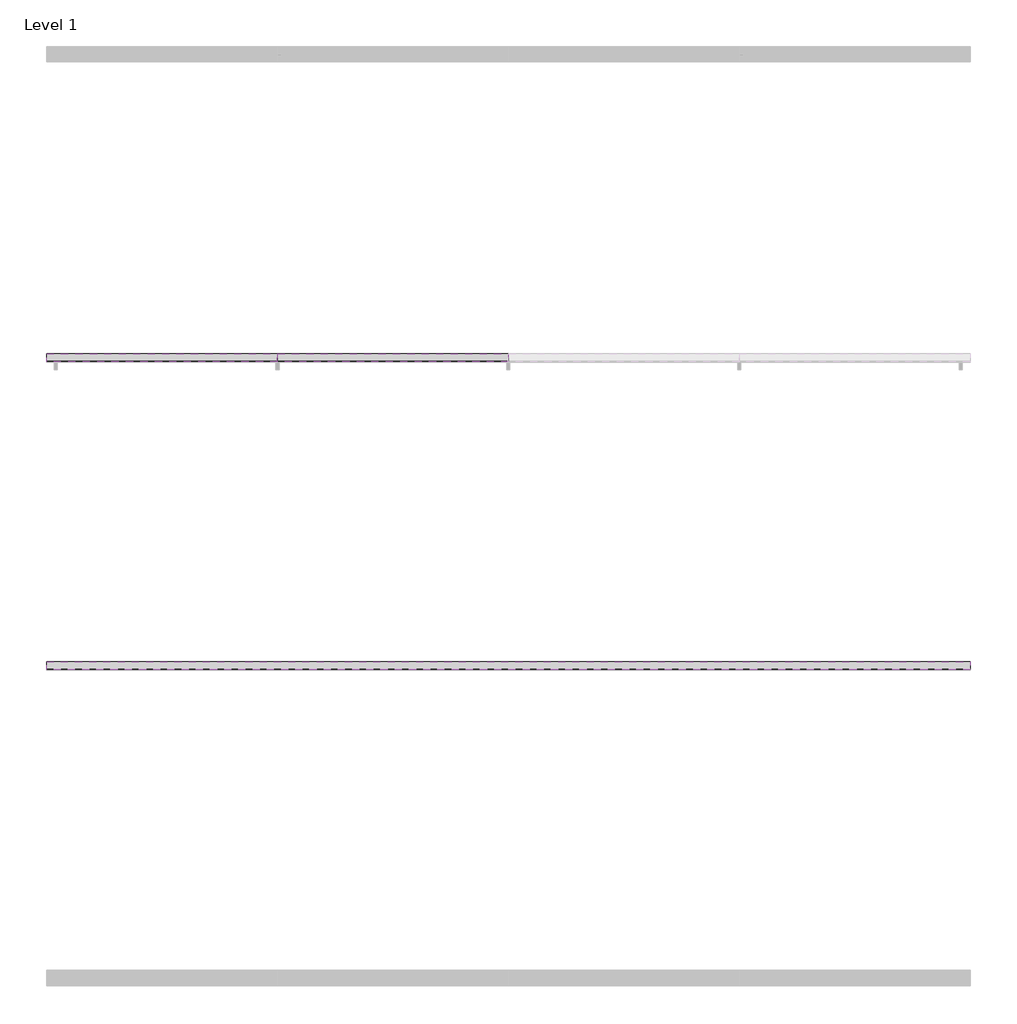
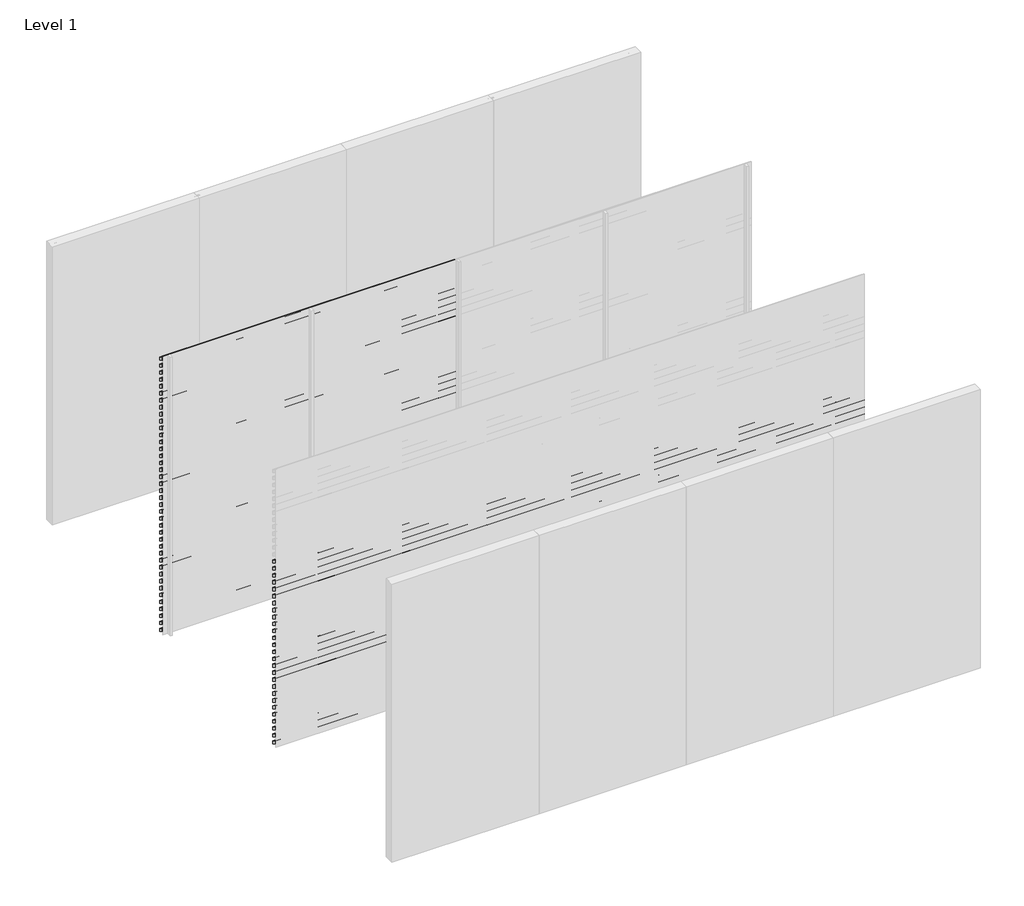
# One storey, part 6 of 9: 94 proxies.
"""IFC4 building model written with IfcOpenShell, lengths in millimetres."""

from ifc_helpers import new_model, si_unit, frame, origin, place, context, project, spatial, polyline, outline, extrude, element, save

model = new_model("IFC4")

# Units and contexts
model_context = context("Model", 3, world=origin())
ifc_project = project(units=[si_unit("LENGTHUNIT", "METRE", prefix="MILLI")], contexts=[model_context])

# Site, building, storey
site = spatial("IfcSite", under=ifc_project)
building = spatial("IfcBuilding", under=site)
storey = spatial("IfcBuildingStorey", under=building, Name="Level 1", Elevation=0.0)

# Proxies
placement = place(None, origin())
element("IfcBuildingElementProxy", 1, Name="Wall Sweeps", at=placement, inside=storey, context=model_context, shape_type="SweptSolid", body=[
    extrude(outline(polyline([(-5995.0, 3000.0), (-5995.0, 2991.2901632), (-5946.0, 2963.0), (-5946.0, 2928.0), (-5997.0, 2957.4448637), (-5997.0, 3000.0), (-5995.0, 3000.0)])), frame((0.0, 0.0, 0.0), z_axis=(1.0, 0.0, 0.0), x_axis=(0.0, 1.0, 0.0)), (0.0, 0.0, 1.0), 1500.0),
])
element("IfcBuildingElementProxy", 2, Name="Wall Sweeps", at=placement, inside=storey, context=model_context, shape_type="SweptSolid", body=[
    extrude(outline(polyline([(-5995.0, 2925.0), (-5995.0, 2916.2901632), (-5946.0, 2888.0), (-5946.0, 2853.0), (-5997.0, 2882.4448637), (-5997.0, 2925.0), (-5995.0, 2925.0)])), frame((0.0, 0.0, 0.0), z_axis=(1.0, 0.0, 0.0), x_axis=(0.0, 1.0, 0.0)), (0.0, 0.0, 1.0), 1500.0),
])
element("IfcBuildingElementProxy", 3, Name="Wall Sweeps", at=placement, inside=storey, context=model_context, shape_type="SweptSolid", body=[
    extrude(outline(polyline([(-5995.0, 2850.0), (-5995.0, 2841.2901632), (-5946.0, 2813.0), (-5946.0, 2778.0), (-5997.0, 2807.4448637), (-5997.0, 2850.0), (-5995.0, 2850.0)])), frame((0.0, 0.0, 0.0), z_axis=(1.0, 0.0, 0.0), x_axis=(0.0, 1.0, 0.0)), (0.0, 0.0, 1.0), 1500.0),
])
element("IfcBuildingElementProxy", 4, Name="Wall Sweeps", at=placement, inside=storey, context=model_context, shape_type="SweptSolid", body=[
    extrude(outline(polyline([(-5995.0, 2775.0), (-5995.0, 2766.2901632), (-5946.0, 2738.0), (-5946.0, 2703.0), (-5997.0, 2732.4448637), (-5997.0, 2775.0), (-5995.0, 2775.0)])), frame((0.0, 0.0, 0.0), z_axis=(1.0, 0.0, 0.0), x_axis=(0.0, 1.0, 0.0)), (0.0, 0.0, 1.0), 1500.0),
])
element("IfcBuildingElementProxy", 5, Name="Wall Sweeps", at=placement, inside=storey, context=model_context, shape_type="SweptSolid", body=[
    extrude(outline(polyline([(-5995.0, 2700.0), (-5995.0, 2691.2901632), (-5946.0, 2663.0), (-5946.0, 2628.0), (-5997.0, 2657.4448637), (-5997.0, 2700.0), (-5995.0, 2700.0)])), frame((0.0, 0.0, 0.0), z_axis=(1.0, 0.0, 0.0), x_axis=(0.0, 1.0, 0.0)), (0.0, 0.0, 1.0), 1500.0),
])
element("IfcBuildingElementProxy", 6, Name="Wall Sweeps", at=placement, inside=storey, context=model_context, shape_type="SweptSolid", body=[
    extrude(outline(polyline([(-5995.0, 2625.0), (-5995.0, 2616.2901632), (-5946.0, 2588.0), (-5946.0, 2553.0), (-5997.0, 2582.4448637), (-5997.0, 2625.0), (-5995.0, 2625.0)])), frame((0.0, 0.0, 0.0), z_axis=(1.0, 0.0, 0.0), x_axis=(0.0, 1.0, 0.0)), (0.0, 0.0, 1.0), 1500.0),
])
element("IfcBuildingElementProxy", 7, Name="Wall Sweeps", at=placement, inside=storey, context=model_context, shape_type="SweptSolid", body=[
    extrude(outline(polyline([(-5995.0, 2550.0), (-5995.0, 2541.2901632), (-5946.0, 2513.0), (-5946.0, 2478.0), (-5997.0, 2507.4448637), (-5997.0, 2550.0), (-5995.0, 2550.0)])), frame((0.0, 0.0, 0.0), z_axis=(1.0, 0.0, 0.0), x_axis=(0.0, 1.0, 0.0)), (0.0, 0.0, 1.0), 1500.0),
])
element("IfcBuildingElementProxy", 8, Name="Wall Sweeps", at=placement, inside=storey, context=model_context, shape_type="SweptSolid", body=[
    extrude(outline(polyline([(-5995.0, 2475.0), (-5995.0, 2466.2901632), (-5946.0, 2438.0), (-5946.0, 2403.0), (-5997.0, 2432.4448637), (-5997.0, 2475.0), (-5995.0, 2475.0)])), frame((0.0, 0.0, 0.0), z_axis=(1.0, 0.0, 0.0), x_axis=(0.0, 1.0, 0.0)), (0.0, 0.0, 1.0), 1500.0),
])
element("IfcBuildingElementProxy", 9, Name="Wall Sweeps", at=placement, inside=storey, context=model_context, shape_type="SweptSolid", body=[
    extrude(outline(polyline([(-5995.0, 2400.0), (-5995.0, 2391.2901632), (-5946.0, 2363.0), (-5946.0, 2328.0), (-5997.0, 2357.4448637), (-5997.0, 2400.0), (-5995.0, 2400.0)])), frame((0.0, 0.0, 0.0), z_axis=(1.0, 0.0, 0.0), x_axis=(0.0, 1.0, 0.0)), (0.0, 0.0, 1.0), 1500.0),
])
element("IfcBuildingElementProxy", 10, Name="Wall Sweeps", at=placement, inside=storey, context=model_context, shape_type="SweptSolid", body=[
    extrude(outline(polyline([(-5995.0, 2325.0), (-5995.0, 2316.2901632), (-5946.0, 2288.0), (-5946.0, 2253.0), (-5997.0, 2282.4448637), (-5997.0, 2325.0), (-5995.0, 2325.0)])), frame((0.0, 0.0, 0.0), z_axis=(1.0, 0.0, 0.0), x_axis=(0.0, 1.0, 0.0)), (0.0, 0.0, 1.0), 1500.0),
])
element("IfcBuildingElementProxy", 11, Name="Wall Sweeps", at=placement, inside=storey, context=model_context, shape_type="SweptSolid", body=[
    extrude(outline(polyline([(-5995.0, 2250.0), (-5995.0, 2241.2901632), (-5946.0, 2213.0), (-5946.0, 2178.0), (-5997.0, 2207.4448637), (-5997.0, 2250.0), (-5995.0, 2250.0)])), frame((0.0, 0.0, 0.0), z_axis=(1.0, 0.0, 0.0), x_axis=(0.0, 1.0, 0.0)), (0.0, 0.0, 1.0), 1500.0),
])
element("IfcBuildingElementProxy", 12, Name="Wall Sweeps", at=placement, inside=storey, context=model_context, shape_type="SweptSolid", body=[
    extrude(outline(polyline([(-5995.0, 2175.0), (-5995.0, 2166.2901632), (-5946.0, 2138.0), (-5946.0, 2103.0), (-5997.0, 2132.4448637), (-5997.0, 2175.0), (-5995.0, 2175.0)])), frame((0.0, 0.0, 0.0), z_axis=(1.0, 0.0, 0.0), x_axis=(0.0, 1.0, 0.0)), (0.0, 0.0, 1.0), 1500.0),
])
element("IfcBuildingElementProxy", 13, Name="Wall Sweeps", at=placement, inside=storey, context=model_context, shape_type="SweptSolid", body=[
    extrude(outline(polyline([(-5995.0, 2100.0), (-5995.0, 2091.2901632), (-5946.0, 2063.0), (-5946.0, 2028.0), (-5997.0, 2057.4448637), (-5997.0, 2100.0), (-5995.0, 2100.0)])), frame((0.0, 0.0, 0.0), z_axis=(1.0, 0.0, 0.0), x_axis=(0.0, 1.0, 0.0)), (0.0, 0.0, 1.0), 1500.0),
])
element("IfcBuildingElementProxy", 14, Name="Wall Sweeps", at=placement, inside=storey, context=model_context, shape_type="SweptSolid", body=[
    extrude(outline(polyline([(-5995.0, 2025.0), (-5995.0, 2016.2901632), (-5946.0, 1988.0), (-5946.0, 1953.0), (-5997.0, 1982.4448637), (-5997.0, 2025.0), (-5995.0, 2025.0)])), frame((0.0, 0.0, 0.0), z_axis=(1.0, 0.0, 0.0), x_axis=(0.0, 1.0, 0.0)), (0.0, 0.0, 1.0), 1500.0),
])
element("IfcBuildingElementProxy", 15, Name="Wall Sweeps", at=placement, inside=storey, context=model_context, shape_type="SweptSolid", body=[
    extrude(outline(polyline([(-5995.0, 1950.0), (-5995.0, 1941.2901632), (-5946.0, 1913.0), (-5946.0, 1878.0), (-5997.0, 1907.4448637), (-5997.0, 1950.0), (-5995.0, 1950.0)])), frame((0.0, 0.0, 0.0), z_axis=(1.0, 0.0, 0.0), x_axis=(0.0, 1.0, 0.0)), (0.0, 0.0, 1.0), 1500.0),
])
element("IfcBuildingElementProxy", 16, Name="Wall Sweeps", at=placement, inside=storey, context=model_context, shape_type="SweptSolid", body=[
    extrude(outline(polyline([(-5995.0, 1875.0), (-5995.0, 1866.2901632), (-5946.0, 1838.0), (-5946.0, 1803.0), (-5997.0, 1832.4448637), (-5997.0, 1875.0), (-5995.0, 1875.0)])), frame((0.0, 0.0, 0.0), z_axis=(1.0, 0.0, 0.0), x_axis=(0.0, 1.0, 0.0)), (0.0, 0.0, 1.0), 1500.0),
])
element("IfcBuildingElementProxy", 17, Name="Wall Sweeps", at=placement, inside=storey, context=model_context, shape_type="SweptSolid", body=[
    extrude(outline(polyline([(-5995.0, 1800.0), (-5995.0, 1791.2901632), (-5946.0, 1763.0), (-5946.0, 1728.0), (-5997.0, 1757.4448637), (-5997.0, 1800.0), (-5995.0, 1800.0)])), frame((0.0, 0.0, 0.0), z_axis=(1.0, 0.0, 0.0), x_axis=(0.0, 1.0, 0.0)), (0.0, 0.0, 1.0), 1500.0),
])
element("IfcBuildingElementProxy", 18, Name="Wall Sweeps", at=placement, inside=storey, context=model_context, shape_type="SweptSolid", body=[
    extrude(outline(polyline([(-5995.0, 1725.0), (-5995.0, 1716.2901632), (-5946.0, 1688.0), (-5946.0, 1653.0), (-5997.0, 1682.4448637), (-5997.0, 1725.0), (-5995.0, 1725.0)])), frame((0.0, 0.0, 0.0), z_axis=(1.0, 0.0, 0.0), x_axis=(0.0, 1.0, 0.0)), (0.0, 0.0, 1.0), 1500.0),
])
element("IfcBuildingElementProxy", 19, Name="Wall Sweeps", at=placement, inside=storey, context=model_context, shape_type="SweptSolid", body=[
    extrude(outline(polyline([(-5995.0, 1650.0), (-5995.0, 1641.2901632), (-5946.0, 1613.0), (-5946.0, 1578.0), (-5997.0, 1607.4448637), (-5997.0, 1650.0), (-5995.0, 1650.0)])), frame((0.0, 0.0, 0.0), z_axis=(1.0, 0.0, 0.0), x_axis=(0.0, 1.0, 0.0)), (0.0, 0.0, 1.0), 1500.0),
])
element("IfcBuildingElementProxy", 20, Name="Wall Sweeps", at=placement, inside=storey, context=model_context, shape_type="SweptSolid", body=[
    extrude(outline(polyline([(-5995.0, 1575.0), (-5995.0, 1566.2901632), (-5946.0, 1538.0), (-5946.0, 1503.0), (-5997.0, 1532.4448637), (-5997.0, 1575.0), (-5995.0, 1575.0)])), frame((0.0, 0.0, 0.0), z_axis=(1.0, 0.0, 0.0), x_axis=(0.0, 1.0, 0.0)), (0.0, 0.0, 1.0), 1500.0),
])
element("IfcBuildingElementProxy", 21, Name="Wall Sweeps", at=placement, inside=storey, context=model_context, shape_type="SweptSolid", body=[
    extrude(outline(polyline([(-5995.0, 1500.0), (-5995.0, 1491.2901632), (-5946.0, 1463.0), (-5946.0, 1428.0), (-5997.0, 1457.4448637), (-5997.0, 1500.0), (-5995.0, 1500.0)])), frame((0.0, 0.0, 0.0), z_axis=(1.0, 0.0, 0.0), x_axis=(0.0, 1.0, 0.0)), (0.0, 0.0, 1.0), 1500.0),
])
element("IfcBuildingElementProxy", 22, Name="Wall Sweeps", at=placement, inside=storey, context=model_context, shape_type="SweptSolid", body=[
    extrude(outline(polyline([(-5995.0, 1425.0), (-5995.0, 1416.2901632), (-5946.0, 1388.0), (-5946.0, 1353.0), (-5997.0, 1382.4448637), (-5997.0, 1425.0), (-5995.0, 1425.0)])), frame((0.0, 0.0, 0.0), z_axis=(1.0, 0.0, 0.0), x_axis=(0.0, 1.0, 0.0)), (0.0, 0.0, 1.0), 1500.0),
])
element("IfcBuildingElementProxy", 23, Name="Wall Sweeps", at=placement, inside=storey, context=model_context, shape_type="SweptSolid", body=[
    extrude(outline(polyline([(-5995.0, 1350.0), (-5995.0, 1341.2901632), (-5946.0, 1313.0), (-5946.0, 1278.0), (-5997.0, 1307.4448637), (-5997.0, 1350.0), (-5995.0, 1350.0)])), frame((0.0, 0.0, 0.0), z_axis=(1.0, 0.0, 0.0), x_axis=(0.0, 1.0, 0.0)), (0.0, 0.0, 1.0), 1500.0),
])
element("IfcBuildingElementProxy", 24, Name="Wall Sweeps", at=placement, inside=storey, context=model_context, shape_type="SweptSolid", body=[
    extrude(outline(polyline([(-5995.0, 1275.0), (-5995.0, 1266.2901632), (-5946.0, 1238.0), (-5946.0, 1203.0), (-5997.0, 1232.4448637), (-5997.0, 1275.0), (-5995.0, 1275.0)])), frame((0.0, 0.0, 0.0), z_axis=(1.0, 0.0, 0.0), x_axis=(0.0, 1.0, 0.0)), (0.0, 0.0, 1.0), 1500.0),
])
element("IfcBuildingElementProxy", 25, Name="Wall Sweeps", at=placement, inside=storey, context=model_context, shape_type="SweptSolid", body=[
    extrude(outline(polyline([(-5995.0, 1200.0), (-5995.0, 1191.2901632), (-5946.0, 1163.0), (-5946.0, 1128.0), (-5997.0, 1157.4448637), (-5997.0, 1200.0), (-5995.0, 1200.0)])), frame((0.0, 0.0, 0.0), z_axis=(1.0, 0.0, 0.0), x_axis=(0.0, 1.0, 0.0)), (0.0, 0.0, 1.0), 1500.0),
])
element("IfcBuildingElementProxy", 26, Name="Wall Sweeps", at=placement, inside=storey, context=model_context, shape_type="SweptSolid", body=[
    extrude(outline(polyline([(-5995.0, 1125.0), (-5995.0, 1116.2901632), (-5946.0, 1088.0), (-5946.0, 1053.0), (-5997.0, 1082.4448637), (-5997.0, 1125.0), (-5995.0, 1125.0)])), frame((0.0, 0.0, 0.0), z_axis=(1.0, 0.0, 0.0), x_axis=(0.0, 1.0, 0.0)), (0.0, 0.0, 1.0), 1500.0),
])
element("IfcBuildingElementProxy", 27, Name="Wall Sweeps", at=placement, inside=storey, context=model_context, shape_type="SweptSolid", body=[
    extrude(outline(polyline([(-5995.0, 1050.0), (-5995.0, 1041.2901632), (-5946.0, 1013.0), (-5946.0, 978.0), (-5997.0, 1007.4448637), (-5997.0, 1050.0), (-5995.0, 1050.0)])), frame((0.0, 0.0, 0.0), z_axis=(1.0, 0.0, 0.0), x_axis=(0.0, 1.0, 0.0)), (0.0, 0.0, 1.0), 1500.0),
])
element("IfcBuildingElementProxy", 28, Name="Wall Sweeps", at=placement, inside=storey, context=model_context, shape_type="SweptSolid", body=[
    extrude(outline(polyline([(-5995.0, 975.0), (-5995.0, 966.2901632), (-5946.0, 938.0), (-5946.0, 903.0), (-5997.0, 932.4448637), (-5997.0, 975.0), (-5995.0, 975.0)])), frame((0.0, 0.0, 0.0), z_axis=(1.0, 0.0, 0.0), x_axis=(0.0, 1.0, 0.0)), (0.0, 0.0, 1.0), 1500.0),
])
element("IfcBuildingElementProxy", 29, Name="Wall Sweeps", at=placement, inside=storey, context=model_context, shape_type="SweptSolid", body=[
    extrude(outline(polyline([(-5995.0, 900.0), (-5995.0, 891.2901632), (-5946.0, 863.0), (-5946.0, 828.0), (-5997.0, 857.4448637), (-5997.0, 900.0), (-5995.0, 900.0)])), frame((0.0, 0.0, 0.0), z_axis=(1.0, 0.0, 0.0), x_axis=(0.0, 1.0, 0.0)), (0.0, 0.0, 1.0), 1500.0),
])
element("IfcBuildingElementProxy", 30, Name="Wall Sweeps", at=placement, inside=storey, context=model_context, shape_type="SweptSolid", body=[
    extrude(outline(polyline([(-5995.0, 825.0), (-5995.0, 816.2901632), (-5946.0, 788.0), (-5946.0, 753.0), (-5997.0, 782.4448637), (-5997.0, 825.0), (-5995.0, 825.0)])), frame((0.0, 0.0, 0.0), z_axis=(1.0, 0.0, 0.0), x_axis=(0.0, 1.0, 0.0)), (0.0, 0.0, 1.0), 1500.0),
])
element("IfcBuildingElementProxy", 31, Name="Wall Sweeps", at=placement, inside=storey, context=model_context, shape_type="SweptSolid", body=[
    extrude(outline(polyline([(-5995.0, 750.0), (-5995.0, 741.2901632), (-5946.0, 713.0), (-5946.0, 678.0), (-5997.0, 707.4448637), (-5997.0, 750.0), (-5995.0, 750.0)])), frame((0.0, 0.0, 0.0), z_axis=(1.0, 0.0, 0.0), x_axis=(0.0, 1.0, 0.0)), (0.0, 0.0, 1.0), 1500.0),
])
element("IfcBuildingElementProxy", 32, Name="Wall Sweeps", at=placement, inside=storey, context=model_context, shape_type="SweptSolid", body=[
    extrude(outline(polyline([(-5995.0, 675.0), (-5995.0, 666.2901632), (-5946.0, 638.0), (-5946.0, 603.0), (-5997.0, 632.4448637), (-5997.0, 675.0), (-5995.0, 675.0)])), frame((0.0, 0.0, 0.0), z_axis=(1.0, 0.0, 0.0), x_axis=(0.0, 1.0, 0.0)), (0.0, 0.0, 1.0), 1500.0),
])
element("IfcBuildingElementProxy", 33, Name="Wall Sweeps", at=placement, inside=storey, context=model_context, shape_type="SweptSolid", body=[
    extrude(outline(polyline([(-5995.0, 600.0), (-5995.0, 591.2901632), (-5946.0, 563.0), (-5946.0, 528.0), (-5997.0, 557.4448637), (-5997.0, 600.0), (-5995.0, 600.0)])), frame((0.0, 0.0, 0.0), z_axis=(1.0, 0.0, 0.0), x_axis=(0.0, 1.0, 0.0)), (0.0, 0.0, 1.0), 1500.0),
])
element("IfcBuildingElementProxy", 34, Name="Wall Sweeps", at=placement, inside=storey, context=model_context, shape_type="SweptSolid", body=[
    extrude(outline(polyline([(-5995.0, 525.0), (-5995.0, 516.2901632), (-5946.0, 488.0), (-5946.0, 453.0), (-5997.0, 482.4448637), (-5997.0, 525.0), (-5995.0, 525.0)])), frame((0.0, 0.0, 0.0), z_axis=(1.0, 0.0, 0.0), x_axis=(0.0, 1.0, 0.0)), (0.0, 0.0, 1.0), 1500.0),
])
element("IfcBuildingElementProxy", 35, Name="Wall Sweeps", at=placement, inside=storey, context=model_context, shape_type="SweptSolid", body=[
    extrude(outline(polyline([(-5995.0, 450.0), (-5995.0, 441.2901632), (-5946.0, 413.0), (-5946.0, 378.0), (-5997.0, 407.4448637), (-5997.0, 450.0), (-5995.0, 450.0)])), frame((0.0, 0.0, 0.0), z_axis=(1.0, 0.0, 0.0), x_axis=(0.0, 1.0, 0.0)), (0.0, 0.0, 1.0), 1500.0),
])
element("IfcBuildingElementProxy", 36, Name="Wall Sweeps", at=placement, inside=storey, context=model_context, shape_type="SweptSolid", body=[
    extrude(outline(polyline([(-5995.0, 375.0), (-5995.0, 366.2901632), (-5946.0, 338.0), (-5946.0, 303.0), (-5997.0, 332.4448637), (-5997.0, 375.0), (-5995.0, 375.0)])), frame((0.0, 0.0, 0.0), z_axis=(1.0, 0.0, 0.0), x_axis=(0.0, 1.0, 0.0)), (0.0, 0.0, 1.0), 1500.0),
])
element("IfcBuildingElementProxy", 37, Name="Wall Sweeps", at=placement, inside=storey, context=model_context, shape_type="SweptSolid", body=[
    extrude(outline(polyline([(-5995.0, 300.0), (-5995.0, 291.2901632), (-5946.0, 263.0), (-5946.0, 228.0), (-5997.0, 257.4448637), (-5997.0, 300.0), (-5995.0, 300.0)])), frame((0.0, 0.0, 0.0), z_axis=(1.0, 0.0, 0.0), x_axis=(0.0, 1.0, 0.0)), (0.0, 0.0, 1.0), 1500.0),
])
element("IfcBuildingElementProxy", 38, Name="Wall Sweeps", at=placement, inside=storey, context=model_context, shape_type="SweptSolid", body=[
    extrude(outline(polyline([(-5995.0, 225.0), (-5995.0, 216.2901632), (-5946.0, 188.0), (-5946.0, 153.0), (-5997.0, 182.4448637), (-5997.0, 225.0), (-5995.0, 225.0)])), frame((0.0, 0.0, 0.0), z_axis=(1.0, 0.0, 0.0), x_axis=(0.0, 1.0, 0.0)), (0.0, 0.0, 1.0), 1500.0),
])
element("IfcBuildingElementProxy", 39, Name="Wall Sweeps", at=placement, inside=storey, context=model_context, shape_type="SweptSolid", body=[
    extrude(outline(polyline([(-5995.0, 150.0), (-5995.0, 141.2901632), (-5946.0, 113.0), (-5946.0, 78.0), (-5997.0, 107.4448637), (-5997.0, 150.0), (-5995.0, 150.0)])), frame((0.0, 0.0, 0.0), z_axis=(1.0, 0.0, 0.0), x_axis=(0.0, 1.0, 0.0)), (0.0, 0.0, 1.0), 1500.0),
])
element("IfcBuildingElementProxy", 40, Name="Wall Sweeps", at=placement, inside=storey, context=model_context, shape_type="SweptSolid", body=[
    extrude(outline(polyline([(-5995.0, 75.0), (-5995.0, 66.2901632), (-5946.0, 38.0), (-5946.0, 3.0), (-5997.0, 32.4448637), (-5997.0, 75.0), (-5995.0, 75.0)])), frame((0.0, 0.0, 0.0), z_axis=(1.0, 0.0, 0.0), x_axis=(0.0, 1.0, 0.0)), (0.0, 0.0, 1.0), 1500.0),
])
element("IfcBuildingElementProxy", 41, Name="Wall Sweeps", at=placement, inside=storey, context=model_context, shape_type="SweptSolid", body=[
    extrude(outline(polyline([(-5995.0, 3000.0), (-5995.0, 2991.2901632), (-5946.0, 2963.0), (-5946.0, 2928.0), (-5997.0, 2957.4448637), (-5997.0, 3000.0), (-5995.0, 3000.0)])), frame((1500.0, 0.0, 0.0), z_axis=(1.0, 0.0, 0.0), x_axis=(0.0, 1.0, 0.0)), (0.0, 0.0, 1.0), 1500.0),
])
element("IfcBuildingElementProxy", 42, Name="Wall Sweeps", at=placement, inside=storey, context=model_context, shape_type="SweptSolid", body=[
    extrude(outline(polyline([(-5995.0, 2925.0), (-5995.0, 2916.2901632), (-5946.0, 2888.0), (-5946.0, 2853.0), (-5997.0, 2882.4448637), (-5997.0, 2925.0), (-5995.0, 2925.0)])), frame((1500.0, 0.0, 0.0), z_axis=(1.0, 0.0, 0.0), x_axis=(0.0, 1.0, 0.0)), (0.0, 0.0, 1.0), 1500.0),
])
element("IfcBuildingElementProxy", 43, Name="Wall Sweeps", at=placement, inside=storey, context=model_context, shape_type="SweptSolid", body=[
    extrude(outline(polyline([(-5995.0, 2850.0), (-5995.0, 2841.2901632), (-5946.0, 2813.0), (-5946.0, 2778.0), (-5997.0, 2807.4448637), (-5997.0, 2850.0), (-5995.0, 2850.0)])), frame((1500.0, 0.0, 0.0), z_axis=(1.0, 0.0, 0.0), x_axis=(0.0, 1.0, 0.0)), (0.0, 0.0, 1.0), 1500.0),
])
element("IfcBuildingElementProxy", 44, Name="Wall Sweeps", at=placement, inside=storey, context=model_context, shape_type="SweptSolid", body=[
    extrude(outline(polyline([(-5995.0, 2775.0), (-5995.0, 2766.2901632), (-5946.0, 2738.0), (-5946.0, 2703.0), (-5997.0, 2732.4448637), (-5997.0, 2775.0), (-5995.0, 2775.0)])), frame((1500.0, 0.0, 0.0), z_axis=(1.0, 0.0, 0.0), x_axis=(0.0, 1.0, 0.0)), (0.0, 0.0, 1.0), 1500.0),
])
element("IfcBuildingElementProxy", 45, Name="Wall Sweeps", at=placement, inside=storey, context=model_context, shape_type="SweptSolid", body=[
    extrude(outline(polyline([(-5995.0, 2700.0), (-5995.0, 2691.2901632), (-5946.0, 2663.0), (-5946.0, 2628.0), (-5997.0, 2657.4448637), (-5997.0, 2700.0), (-5995.0, 2700.0)])), frame((1500.0, 0.0, 0.0), z_axis=(1.0, 0.0, 0.0), x_axis=(0.0, 1.0, 0.0)), (0.0, 0.0, 1.0), 1500.0),
])
element("IfcBuildingElementProxy", 46, Name="Wall Sweeps", at=placement, inside=storey, context=model_context, shape_type="SweptSolid", body=[
    extrude(outline(polyline([(-5995.0, 2625.0), (-5995.0, 2616.2901632), (-5946.0, 2588.0), (-5946.0, 2553.0), (-5997.0, 2582.4448637), (-5997.0, 2625.0), (-5995.0, 2625.0)])), frame((1500.0, 0.0, 0.0), z_axis=(1.0, 0.0, 0.0), x_axis=(0.0, 1.0, 0.0)), (0.0, 0.0, 1.0), 1500.0),
])
element("IfcBuildingElementProxy", 47, Name="Wall Sweeps", at=placement, inside=storey, context=model_context, shape_type="SweptSolid", body=[
    extrude(outline(polyline([(-5995.0, 2550.0), (-5995.0, 2541.2901632), (-5946.0, 2513.0), (-5946.0, 2478.0), (-5997.0, 2507.4448637), (-5997.0, 2550.0), (-5995.0, 2550.0)])), frame((1500.0, 0.0, 0.0), z_axis=(1.0, 0.0, 0.0), x_axis=(0.0, 1.0, 0.0)), (0.0, 0.0, 1.0), 1500.0),
])
element("IfcBuildingElementProxy", 48, Name="Wall Sweeps", at=placement, inside=storey, context=model_context, shape_type="SweptSolid", body=[
    extrude(outline(polyline([(-5995.0, 2475.0), (-5995.0, 2466.2901632), (-5946.0, 2438.0), (-5946.0, 2403.0), (-5997.0, 2432.4448637), (-5997.0, 2475.0), (-5995.0, 2475.0)])), frame((1500.0, 0.0, 0.0), z_axis=(1.0, 0.0, 0.0), x_axis=(0.0, 1.0, 0.0)), (0.0, 0.0, 1.0), 1500.0),
])
element("IfcBuildingElementProxy", 49, Name="Wall Sweeps", at=placement, inside=storey, context=model_context, shape_type="SweptSolid", body=[
    extrude(outline(polyline([(-5995.0, 2400.0), (-5995.0, 2391.2901632), (-5946.0, 2363.0), (-5946.0, 2328.0), (-5997.0, 2357.4448637), (-5997.0, 2400.0), (-5995.0, 2400.0)])), frame((1500.0, 0.0, 0.0), z_axis=(1.0, 0.0, 0.0), x_axis=(0.0, 1.0, 0.0)), (0.0, 0.0, 1.0), 1500.0),
])
element("IfcBuildingElementProxy", 50, Name="Wall Sweeps", at=placement, inside=storey, context=model_context, shape_type="SweptSolid", body=[
    extrude(outline(polyline([(-5995.0, 2325.0), (-5995.0, 2316.2901632), (-5946.0, 2288.0), (-5946.0, 2253.0), (-5997.0, 2282.4448637), (-5997.0, 2325.0), (-5995.0, 2325.0)])), frame((1500.0, 0.0, 0.0), z_axis=(1.0, 0.0, 0.0), x_axis=(0.0, 1.0, 0.0)), (0.0, 0.0, 1.0), 1500.0),
])
element("IfcBuildingElementProxy", 51, Name="Wall Sweeps", at=placement, inside=storey, context=model_context, shape_type="SweptSolid", body=[
    extrude(outline(polyline([(-5995.0, 2250.0), (-5995.0, 2241.2901632), (-5946.0, 2213.0), (-5946.0, 2178.0), (-5997.0, 2207.4448637), (-5997.0, 2250.0), (-5995.0, 2250.0)])), frame((1500.0, 0.0, 0.0), z_axis=(1.0, 0.0, 0.0), x_axis=(0.0, 1.0, 0.0)), (0.0, 0.0, 1.0), 1500.0),
])
element("IfcBuildingElementProxy", 52, Name="Wall Sweeps", at=placement, inside=storey, context=model_context, shape_type="SweptSolid", body=[
    extrude(outline(polyline([(-5995.0, 2175.0), (-5995.0, 2166.2901632), (-5946.0, 2138.0), (-5946.0, 2103.0), (-5997.0, 2132.4448637), (-5997.0, 2175.0), (-5995.0, 2175.0)])), frame((1500.0, 0.0, 0.0), z_axis=(1.0, 0.0, 0.0), x_axis=(0.0, 1.0, 0.0)), (0.0, 0.0, 1.0), 1500.0),
])
element("IfcBuildingElementProxy", 53, Name="Wall Sweeps", at=placement, inside=storey, context=model_context, shape_type="SweptSolid", body=[
    extrude(outline(polyline([(-5995.0, 2100.0), (-5995.0, 2091.2901632), (-5946.0, 2063.0), (-5946.0, 2028.0), (-5997.0, 2057.4448637), (-5997.0, 2100.0), (-5995.0, 2100.0)])), frame((1500.0, 0.0, 0.0), z_axis=(1.0, 0.0, 0.0), x_axis=(0.0, 1.0, 0.0)), (0.0, 0.0, 1.0), 1500.0),
])
element("IfcBuildingElementProxy", 54, Name="Wall Sweeps", at=placement, inside=storey, context=model_context, shape_type="SweptSolid", body=[
    extrude(outline(polyline([(-5995.0, 2025.0), (-5995.0, 2016.2901632), (-5946.0, 1988.0), (-5946.0, 1953.0), (-5997.0, 1982.4448637), (-5997.0, 2025.0), (-5995.0, 2025.0)])), frame((1500.0, 0.0, 0.0), z_axis=(1.0, 0.0, 0.0), x_axis=(0.0, 1.0, 0.0)), (0.0, 0.0, 1.0), 1500.0),
])
element("IfcBuildingElementProxy", 55, Name="Wall Sweeps", at=placement, inside=storey, context=model_context, shape_type="SweptSolid", body=[
    extrude(outline(polyline([(-5995.0, 1950.0), (-5995.0, 1941.2901632), (-5946.0, 1913.0), (-5946.0, 1878.0), (-5997.0, 1907.4448637), (-5997.0, 1950.0), (-5995.0, 1950.0)])), frame((1500.0, 0.0, 0.0), z_axis=(1.0, 0.0, 0.0), x_axis=(0.0, 1.0, 0.0)), (0.0, 0.0, 1.0), 1500.0),
])
element("IfcBuildingElementProxy", 56, Name="Wall Sweeps", at=placement, inside=storey, context=model_context, shape_type="SweptSolid", body=[
    extrude(outline(polyline([(-5995.0, 1875.0), (-5995.0, 1866.2901632), (-5946.0, 1838.0), (-5946.0, 1803.0), (-5997.0, 1832.4448637), (-5997.0, 1875.0), (-5995.0, 1875.0)])), frame((1500.0, 0.0, 0.0), z_axis=(1.0, 0.0, 0.0), x_axis=(0.0, 1.0, 0.0)), (0.0, 0.0, 1.0), 1500.0),
])
element("IfcBuildingElementProxy", 57, Name="Wall Sweeps", at=placement, inside=storey, context=model_context, shape_type="SweptSolid", body=[
    extrude(outline(polyline([(-5995.0, 1800.0), (-5995.0, 1791.2901632), (-5946.0, 1763.0), (-5946.0, 1728.0), (-5997.0, 1757.4448637), (-5997.0, 1800.0), (-5995.0, 1800.0)])), frame((1500.0, 0.0, 0.0), z_axis=(1.0, 0.0, 0.0), x_axis=(0.0, 1.0, 0.0)), (0.0, 0.0, 1.0), 1500.0),
])
element("IfcBuildingElementProxy", 58, Name="Wall Sweeps", at=placement, inside=storey, context=model_context, shape_type="SweptSolid", body=[
    extrude(outline(polyline([(-5995.0, 1725.0), (-5995.0, 1716.2901632), (-5946.0, 1688.0), (-5946.0, 1653.0), (-5997.0, 1682.4448637), (-5997.0, 1725.0), (-5995.0, 1725.0)])), frame((1500.0, 0.0, 0.0), z_axis=(1.0, 0.0, 0.0), x_axis=(0.0, 1.0, 0.0)), (0.0, 0.0, 1.0), 1500.0),
])
element("IfcBuildingElementProxy", 59, Name="Wall Sweeps", at=placement, inside=storey, context=model_context, shape_type="SweptSolid", body=[
    extrude(outline(polyline([(-5995.0, 1650.0), (-5995.0, 1641.2901632), (-5946.0, 1613.0), (-5946.0, 1578.0), (-5997.0, 1607.4448637), (-5997.0, 1650.0), (-5995.0, 1650.0)])), frame((1500.0, 0.0, 0.0), z_axis=(1.0, 0.0, 0.0), x_axis=(0.0, 1.0, 0.0)), (0.0, 0.0, 1.0), 1500.0),
])
element("IfcBuildingElementProxy", 60, Name="Wall Sweeps", at=placement, inside=storey, context=model_context, shape_type="SweptSolid", body=[
    extrude(outline(polyline([(-5995.0, 1575.0), (-5995.0, 1566.2901632), (-5946.0, 1538.0), (-5946.0, 1503.0), (-5997.0, 1532.4448637), (-5997.0, 1575.0), (-5995.0, 1575.0)])), frame((1500.0, 0.0, 0.0), z_axis=(1.0, 0.0, 0.0), x_axis=(0.0, 1.0, 0.0)), (0.0, 0.0, 1.0), 1500.0),
])
element("IfcBuildingElementProxy", 61, Name="Wall Sweeps", at=placement, inside=storey, context=model_context, shape_type="SweptSolid", body=[
    extrude(outline(polyline([(-5995.0, 1500.0), (-5995.0, 1491.2901632), (-5946.0, 1463.0), (-5946.0, 1428.0), (-5997.0, 1457.4448637), (-5997.0, 1500.0), (-5995.0, 1500.0)])), frame((1500.0, 0.0, 0.0), z_axis=(1.0, 0.0, 0.0), x_axis=(0.0, 1.0, 0.0)), (0.0, 0.0, 1.0), 1500.0),
])
element("IfcBuildingElementProxy", 62, Name="Wall Sweeps", at=placement, inside=storey, context=model_context, shape_type="SweptSolid", body=[
    extrude(outline(polyline([(-5995.0, 1425.0), (-5995.0, 1416.2901632), (-5946.0, 1388.0), (-5946.0, 1353.0), (-5997.0, 1382.4448637), (-5997.0, 1425.0), (-5995.0, 1425.0)])), frame((1500.0, 0.0, 0.0), z_axis=(1.0, 0.0, 0.0), x_axis=(0.0, 1.0, 0.0)), (0.0, 0.0, 1.0), 1500.0),
])
element("IfcBuildingElementProxy", 63, Name="Wall Sweeps", at=placement, inside=storey, context=model_context, shape_type="SweptSolid", body=[
    extrude(outline(polyline([(-5995.0, 1350.0), (-5995.0, 1341.2901632), (-5946.0, 1313.0), (-5946.0, 1278.0), (-5997.0, 1307.4448637), (-5997.0, 1350.0), (-5995.0, 1350.0)])), frame((1500.0, 0.0, 0.0), z_axis=(1.0, 0.0, 0.0), x_axis=(0.0, 1.0, 0.0)), (0.0, 0.0, 1.0), 1500.0),
])
element("IfcBuildingElementProxy", 64, Name="Wall Sweeps", at=placement, inside=storey, context=model_context, shape_type="SweptSolid", body=[
    extrude(outline(polyline([(-5995.0, 1275.0), (-5995.0, 1266.2901632), (-5946.0, 1238.0), (-5946.0, 1203.0), (-5997.0, 1232.4448637), (-5997.0, 1275.0), (-5995.0, 1275.0)])), frame((1500.0, 0.0, 0.0), z_axis=(1.0, 0.0, 0.0), x_axis=(0.0, 1.0, 0.0)), (0.0, 0.0, 1.0), 1500.0),
])
element("IfcBuildingElementProxy", 65, Name="Wall Sweeps", at=placement, inside=storey, context=model_context, shape_type="SweptSolid", body=[
    extrude(outline(polyline([(-5995.0, 1200.0), (-5995.0, 1191.2901632), (-5946.0, 1163.0), (-5946.0, 1128.0), (-5997.0, 1157.4448637), (-5997.0, 1200.0), (-5995.0, 1200.0)])), frame((1500.0, 0.0, 0.0), z_axis=(1.0, 0.0, 0.0), x_axis=(0.0, 1.0, 0.0)), (0.0, 0.0, 1.0), 1500.0),
])
element("IfcBuildingElementProxy", 66, Name="Wall Sweeps", at=placement, inside=storey, context=model_context, shape_type="SweptSolid", body=[
    extrude(outline(polyline([(-5995.0, 1125.0), (-5995.0, 1116.2901632), (-5946.0, 1088.0), (-5946.0, 1053.0), (-5997.0, 1082.4448637), (-5997.0, 1125.0), (-5995.0, 1125.0)])), frame((1500.0, 0.0, 0.0), z_axis=(1.0, 0.0, 0.0), x_axis=(0.0, 1.0, 0.0)), (0.0, 0.0, 1.0), 1500.0),
])
element("IfcBuildingElementProxy", 67, Name="Wall Sweeps", at=placement, inside=storey, context=model_context, shape_type="SweptSolid", body=[
    extrude(outline(polyline([(-5995.0, 1050.0), (-5995.0, 1041.2901632), (-5946.0, 1013.0), (-5946.0, 978.0), (-5997.0, 1007.4448637), (-5997.0, 1050.0), (-5995.0, 1050.0)])), frame((1500.0, 0.0, 0.0), z_axis=(1.0, 0.0, 0.0), x_axis=(0.0, 1.0, 0.0)), (0.0, 0.0, 1.0), 1500.0),
])
element("IfcBuildingElementProxy", 68, Name="Wall Sweeps", at=placement, inside=storey, context=model_context, shape_type="SweptSolid", body=[
    extrude(outline(polyline([(-7995.0, 2025.0), (-7995.0, 2016.2901632), (-7946.0, 1988.0), (-7946.0, 1953.0), (-7997.0, 1982.4448637), (-7997.0, 2025.0), (-7995.0, 2025.0)])), frame((0.0, 0.0, 0.0), z_axis=(1.0, 0.0, 0.0), x_axis=(0.0, 1.0, 0.0)), (0.0, 0.0, 1.0), 6000.0),
])
element("IfcBuildingElementProxy", 69, Name="Wall Sweeps", at=placement, inside=storey, context=model_context, shape_type="SweptSolid", body=[
    extrude(outline(polyline([(-7995.0, 1950.0), (-7995.0, 1941.2901632), (-7946.0, 1913.0), (-7946.0, 1878.0), (-7997.0, 1907.4448637), (-7997.0, 1950.0), (-7995.0, 1950.0)])), frame((0.0, 0.0, 0.0), z_axis=(1.0, 0.0, 0.0), x_axis=(0.0, 1.0, 0.0)), (0.0, 0.0, 1.0), 6000.0),
])
element("IfcBuildingElementProxy", 70, Name="Wall Sweeps", at=placement, inside=storey, context=model_context, shape_type="SweptSolid", body=[
    extrude(outline(polyline([(-7995.0, 1875.0), (-7995.0, 1866.2901632), (-7946.0, 1838.0), (-7946.0, 1803.0), (-7997.0, 1832.4448637), (-7997.0, 1875.0), (-7995.0, 1875.0)])), frame((0.0, 0.0, 0.0), z_axis=(1.0, 0.0, 0.0), x_axis=(0.0, 1.0, 0.0)), (0.0, 0.0, 1.0), 6000.0),
])
element("IfcBuildingElementProxy", 71, Name="Wall Sweeps", at=placement, inside=storey, context=model_context, shape_type="SweptSolid", body=[
    extrude(outline(polyline([(-7995.0, 1800.0), (-7995.0, 1791.2901632), (-7946.0, 1763.0), (-7946.0, 1728.0), (-7997.0, 1757.4448637), (-7997.0, 1800.0), (-7995.0, 1800.0)])), frame((0.0, 0.0, 0.0), z_axis=(1.0, 0.0, 0.0), x_axis=(0.0, 1.0, 0.0)), (0.0, 0.0, 1.0), 6000.0),
])
element("IfcBuildingElementProxy", 72, Name="Wall Sweeps", at=placement, inside=storey, context=model_context, shape_type="SweptSolid", body=[
    extrude(outline(polyline([(-7995.0, 1725.0), (-7995.0, 1716.2901632), (-7946.0, 1688.0), (-7946.0, 1653.0), (-7997.0, 1682.4448637), (-7997.0, 1725.0), (-7995.0, 1725.0)])), frame((0.0, 0.0, 0.0), z_axis=(1.0, 0.0, 0.0), x_axis=(0.0, 1.0, 0.0)), (0.0, 0.0, 1.0), 6000.0),
])
element("IfcBuildingElementProxy", 73, Name="Wall Sweeps", at=placement, inside=storey, context=model_context, shape_type="SweptSolid", body=[
    extrude(outline(polyline([(-7995.0, 1650.0), (-7995.0, 1641.2901632), (-7946.0, 1613.0), (-7946.0, 1578.0), (-7997.0, 1607.4448637), (-7997.0, 1650.0), (-7995.0, 1650.0)])), frame((0.0, 0.0, 0.0), z_axis=(1.0, 0.0, 0.0), x_axis=(0.0, 1.0, 0.0)), (0.0, 0.0, 1.0), 6000.0),
])
element("IfcBuildingElementProxy", 74, Name="Wall Sweeps", at=placement, inside=storey, context=model_context, shape_type="SweptSolid", body=[
    extrude(outline(polyline([(-7995.0, 1575.0), (-7995.0, 1566.2901632), (-7946.0, 1538.0), (-7946.0, 1503.0), (-7997.0, 1532.4448637), (-7997.0, 1575.0), (-7995.0, 1575.0)])), frame((0.0, 0.0, 0.0), z_axis=(1.0, 0.0, 0.0), x_axis=(0.0, 1.0, 0.0)), (0.0, 0.0, 1.0), 6000.0),
])
element("IfcBuildingElementProxy", 75, Name="Wall Sweeps", at=placement, inside=storey, context=model_context, shape_type="SweptSolid", body=[
    extrude(outline(polyline([(-7995.0, 1500.0), (-7995.0, 1491.2901632), (-7946.0, 1463.0), (-7946.0, 1428.0), (-7997.0, 1457.4448637), (-7997.0, 1500.0), (-7995.0, 1500.0)])), frame((0.0, 0.0, 0.0), z_axis=(1.0, 0.0, 0.0), x_axis=(0.0, 1.0, 0.0)), (0.0, 0.0, 1.0), 6000.0),
])
element("IfcBuildingElementProxy", 76, Name="Wall Sweeps", at=placement, inside=storey, context=model_context, shape_type="SweptSolid", body=[
    extrude(outline(polyline([(-7995.0, 1425.0), (-7995.0, 1416.2901632), (-7946.0, 1388.0), (-7946.0, 1353.0), (-7997.0, 1382.4448637), (-7997.0, 1425.0), (-7995.0, 1425.0)])), frame((0.0, 0.0, 0.0), z_axis=(1.0, 0.0, 0.0), x_axis=(0.0, 1.0, 0.0)), (0.0, 0.0, 1.0), 6000.0),
])
element("IfcBuildingElementProxy", 77, Name="Wall Sweeps", at=placement, inside=storey, context=model_context, shape_type="SweptSolid", body=[
    extrude(outline(polyline([(-7995.0, 1350.0), (-7995.0, 1341.2901632), (-7946.0, 1313.0), (-7946.0, 1278.0), (-7997.0, 1307.4448637), (-7997.0, 1350.0), (-7995.0, 1350.0)])), frame((0.0, 0.0, 0.0), z_axis=(1.0, 0.0, 0.0), x_axis=(0.0, 1.0, 0.0)), (0.0, 0.0, 1.0), 6000.0),
])
element("IfcBuildingElementProxy", 78, Name="Wall Sweeps", at=placement, inside=storey, context=model_context, shape_type="SweptSolid", body=[
    extrude(outline(polyline([(-7995.0, 1275.0), (-7995.0, 1266.2901632), (-7946.0, 1238.0), (-7946.0, 1203.0), (-7997.0, 1232.4448637), (-7997.0, 1275.0), (-7995.0, 1275.0)])), frame((0.0, 0.0, 0.0), z_axis=(1.0, 0.0, 0.0), x_axis=(0.0, 1.0, 0.0)), (0.0, 0.0, 1.0), 6000.0),
])
element("IfcBuildingElementProxy", 79, Name="Wall Sweeps", at=placement, inside=storey, context=model_context, shape_type="SweptSolid", body=[
    extrude(outline(polyline([(-7995.0, 1200.0), (-7995.0, 1191.2901632), (-7946.0, 1163.0), (-7946.0, 1128.0), (-7997.0, 1157.4448637), (-7997.0, 1200.0), (-7995.0, 1200.0)])), frame((0.0, 0.0, 0.0), z_axis=(1.0, 0.0, 0.0), x_axis=(0.0, 1.0, 0.0)), (0.0, 0.0, 1.0), 6000.0),
])
element("IfcBuildingElementProxy", 80, Name="Wall Sweeps", at=placement, inside=storey, context=model_context, shape_type="SweptSolid", body=[
    extrude(outline(polyline([(-7995.0, 1125.0), (-7995.0, 1116.2901632), (-7946.0, 1088.0), (-7946.0, 1053.0), (-7997.0, 1082.4448637), (-7997.0, 1125.0), (-7995.0, 1125.0)])), frame((0.0, 0.0, 0.0), z_axis=(1.0, 0.0, 0.0), x_axis=(0.0, 1.0, 0.0)), (0.0, 0.0, 1.0), 6000.0),
])
element("IfcBuildingElementProxy", 81, Name="Wall Sweeps", at=placement, inside=storey, context=model_context, shape_type="SweptSolid", body=[
    extrude(outline(polyline([(-7995.0, 1050.0), (-7995.0, 1041.2901632), (-7946.0, 1013.0), (-7946.0, 978.0), (-7997.0, 1007.4448637), (-7997.0, 1050.0), (-7995.0, 1050.0)])), frame((0.0, 0.0, 0.0), z_axis=(1.0, 0.0, 0.0), x_axis=(0.0, 1.0, 0.0)), (0.0, 0.0, 1.0), 6000.0),
])
element("IfcBuildingElementProxy", 82, Name="Wall Sweeps", at=placement, inside=storey, context=model_context, shape_type="SweptSolid", body=[
    extrude(outline(polyline([(-7995.0, 975.0), (-7995.0, 966.2901632), (-7946.0, 938.0), (-7946.0, 903.0), (-7997.0, 932.4448637), (-7997.0, 975.0), (-7995.0, 975.0)])), frame((0.0, 0.0, 0.0), z_axis=(1.0, 0.0, 0.0), x_axis=(0.0, 1.0, 0.0)), (0.0, 0.0, 1.0), 6000.0),
])
element("IfcBuildingElementProxy", 83, Name="Wall Sweeps", at=placement, inside=storey, context=model_context, shape_type="SweptSolid", body=[
    extrude(outline(polyline([(-7995.0, 900.0), (-7995.0, 891.2901632), (-7946.0, 863.0), (-7946.0, 828.0), (-7997.0, 857.4448637), (-7997.0, 900.0), (-7995.0, 900.0)])), frame((0.0, 0.0, 0.0), z_axis=(1.0, 0.0, 0.0), x_axis=(0.0, 1.0, 0.0)), (0.0, 0.0, 1.0), 6000.0),
])
element("IfcBuildingElementProxy", 84, Name="Wall Sweeps", at=placement, inside=storey, context=model_context, shape_type="SweptSolid", body=[
    extrude(outline(polyline([(-7995.0, 825.0), (-7995.0, 816.2901632), (-7946.0, 788.0), (-7946.0, 753.0), (-7997.0, 782.4448637), (-7997.0, 825.0), (-7995.0, 825.0)])), frame((0.0, 0.0, 0.0), z_axis=(1.0, 0.0, 0.0), x_axis=(0.0, 1.0, 0.0)), (0.0, 0.0, 1.0), 6000.0),
])
element("IfcBuildingElementProxy", 85, Name="Wall Sweeps", at=placement, inside=storey, context=model_context, shape_type="SweptSolid", body=[
    extrude(outline(polyline([(-7995.0, 750.0), (-7995.0, 741.2901632), (-7946.0, 713.0), (-7946.0, 678.0), (-7997.0, 707.4448637), (-7997.0, 750.0), (-7995.0, 750.0)])), frame((0.0, 0.0, 0.0), z_axis=(1.0, 0.0, 0.0), x_axis=(0.0, 1.0, 0.0)), (0.0, 0.0, 1.0), 6000.0),
])
element("IfcBuildingElementProxy", 86, Name="Wall Sweeps", at=placement, inside=storey, context=model_context, shape_type="SweptSolid", body=[
    extrude(outline(polyline([(-7995.0, 675.0), (-7995.0, 666.2901632), (-7946.0, 638.0), (-7946.0, 603.0), (-7997.0, 632.4448637), (-7997.0, 675.0), (-7995.0, 675.0)])), frame((0.0, 0.0, 0.0), z_axis=(1.0, 0.0, 0.0), x_axis=(0.0, 1.0, 0.0)), (0.0, 0.0, 1.0), 6000.0),
])
element("IfcBuildingElementProxy", 87, Name="Wall Sweeps", at=placement, inside=storey, context=model_context, shape_type="SweptSolid", body=[
    extrude(outline(polyline([(-7995.0, 600.0), (-7995.0, 591.2901632), (-7946.0, 563.0), (-7946.0, 528.0), (-7997.0, 557.4448637), (-7997.0, 600.0), (-7995.0, 600.0)])), frame((0.0, 0.0, 0.0), z_axis=(1.0, 0.0, 0.0), x_axis=(0.0, 1.0, 0.0)), (0.0, 0.0, 1.0), 6000.0),
])
element("IfcBuildingElementProxy", 88, Name="Wall Sweeps", at=placement, inside=storey, context=model_context, shape_type="SweptSolid", body=[
    extrude(outline(polyline([(-7995.0, 525.0), (-7995.0, 516.2901632), (-7946.0, 488.0), (-7946.0, 453.0), (-7997.0, 482.4448637), (-7997.0, 525.0), (-7995.0, 525.0)])), frame((0.0, 0.0, 0.0), z_axis=(1.0, 0.0, 0.0), x_axis=(0.0, 1.0, 0.0)), (0.0, 0.0, 1.0), 6000.0),
])
element("IfcBuildingElementProxy", 89, Name="Wall Sweeps", at=placement, inside=storey, context=model_context, shape_type="SweptSolid", body=[
    extrude(outline(polyline([(-7995.0, 450.0), (-7995.0, 441.2901632), (-7946.0, 413.0), (-7946.0, 378.0), (-7997.0, 407.4448637), (-7997.0, 450.0), (-7995.0, 450.0)])), frame((0.0, 0.0, 0.0), z_axis=(1.0, 0.0, 0.0), x_axis=(0.0, 1.0, 0.0)), (0.0, 0.0, 1.0), 6000.0),
])
element("IfcBuildingElementProxy", 90, Name="Wall Sweeps", at=placement, inside=storey, context=model_context, shape_type="SweptSolid", body=[
    extrude(outline(polyline([(-7995.0, 375.0), (-7995.0, 366.2901632), (-7946.0, 338.0), (-7946.0, 303.0), (-7997.0, 332.4448637), (-7997.0, 375.0), (-7995.0, 375.0)])), frame((0.0, 0.0, 0.0), z_axis=(1.0, 0.0, 0.0), x_axis=(0.0, 1.0, 0.0)), (0.0, 0.0, 1.0), 6000.0),
])
element("IfcBuildingElementProxy", 91, Name="Wall Sweeps", at=placement, inside=storey, context=model_context, shape_type="SweptSolid", body=[
    extrude(outline(polyline([(-7995.0, 300.0), (-7995.0, 291.2901632), (-7946.0, 263.0), (-7946.0, 228.0), (-7997.0, 257.4448637), (-7997.0, 300.0), (-7995.0, 300.0)])), frame((0.0, 0.0, 0.0), z_axis=(1.0, 0.0, 0.0), x_axis=(0.0, 1.0, 0.0)), (0.0, 0.0, 1.0), 6000.0),
])
element("IfcBuildingElementProxy", 92, Name="Wall Sweeps", at=placement, inside=storey, context=model_context, shape_type="SweptSolid", body=[
    extrude(outline(polyline([(-7995.0, 225.0), (-7995.0, 216.2901632), (-7946.0, 188.0), (-7946.0, 153.0), (-7997.0, 182.4448637), (-7997.0, 225.0), (-7995.0, 225.0)])), frame((0.0, 0.0, 0.0), z_axis=(1.0, 0.0, 0.0), x_axis=(0.0, 1.0, 0.0)), (0.0, 0.0, 1.0), 6000.0),
])
element("IfcBuildingElementProxy", 93, Name="Wall Sweeps", at=placement, inside=storey, context=model_context, shape_type="SweptSolid", body=[
    extrude(outline(polyline([(-7995.0, 150.0), (-7995.0, 141.2901632), (-7946.0, 113.0), (-7946.0, 78.0), (-7997.0, 107.4448637), (-7997.0, 150.0), (-7995.0, 150.0)])), frame((0.0, 0.0, 0.0), z_axis=(1.0, 0.0, 0.0), x_axis=(0.0, 1.0, 0.0)), (0.0, 0.0, 1.0), 6000.0),
])
element("IfcBuildingElementProxy", 94, Name="Wall Sweeps", at=placement, inside=storey, context=model_context, shape_type="SweptSolid", body=[
    extrude(outline(polyline([(-7995.0, 75.0), (-7995.0, 66.2901632), (-7946.0, 38.0), (-7946.0, 3.0), (-7997.0, 32.4448637), (-7997.0, 75.0), (-7995.0, 75.0)])), frame((0.0, 0.0, 0.0), z_axis=(1.0, 0.0, 0.0), x_axis=(0.0, 1.0, 0.0)), (0.0, 0.0, 1.0), 6000.0),
])

save(model, "model.ifc")
